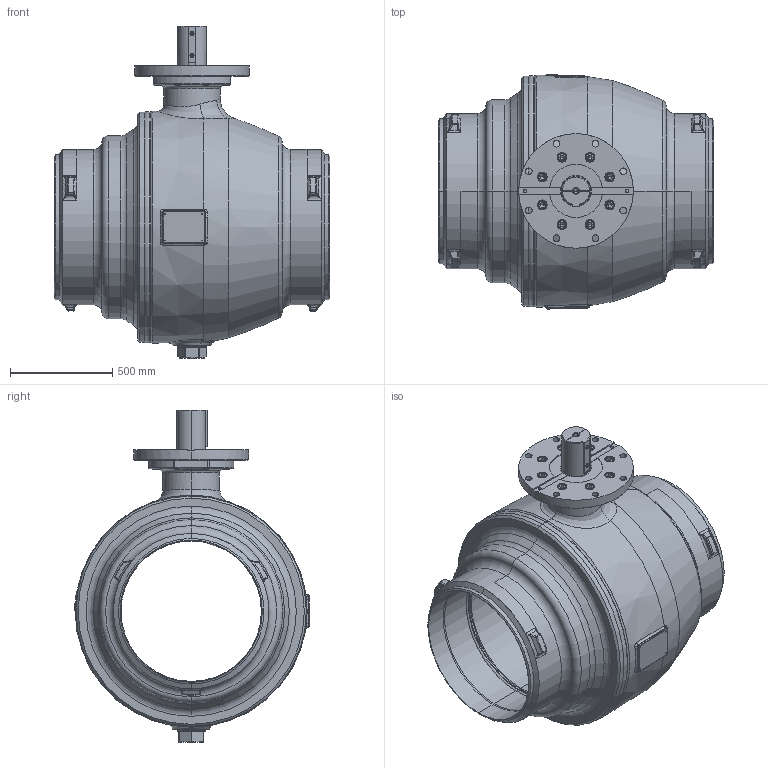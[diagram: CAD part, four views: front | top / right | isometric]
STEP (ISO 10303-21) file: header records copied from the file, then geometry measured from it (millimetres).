
FILE_DESCRIPTION((''),'2;1');
FILE_NAME('KHSVI_700_VVS_FR_WE','2026-01-27T14:14:04',('schwaba'),('KLINGER'),'CREO PARAMETRIC BY PTC INC, 2023014','CREO PARAMETRIC BY PTC INC, 2023014','');
FILE_SCHEMA(('CONFIG_CONTROL_DESIGN'));
Products named in the file (1): KHSVI_700_VVS_FR_WE
Bounding box: 1346 x 1146.34 x 1622 mm (x, y, z)
Volume: 328468070.9 mm3; surface area: 17715360.5 mm2
Topology: 2 solids, 11 shells, 1868 faces, 4537 edges, 2748 vertices
Faces by surface type: plane 716, cylinder 421, torus 278, bspline 212, cone 199, sphere 42
Entity records: 109915 total; most frequent: CARTESIAN_POINT 68371, ORIENTED_EDGE 8970, DIRECTION 8316, EDGE_CURVE 4485, AXIS2_PLACEMENT_3D 3464, VERTEX_POINT 2748, EDGE_LOOP 2049, FACE_OUTER_BOUND 1868
